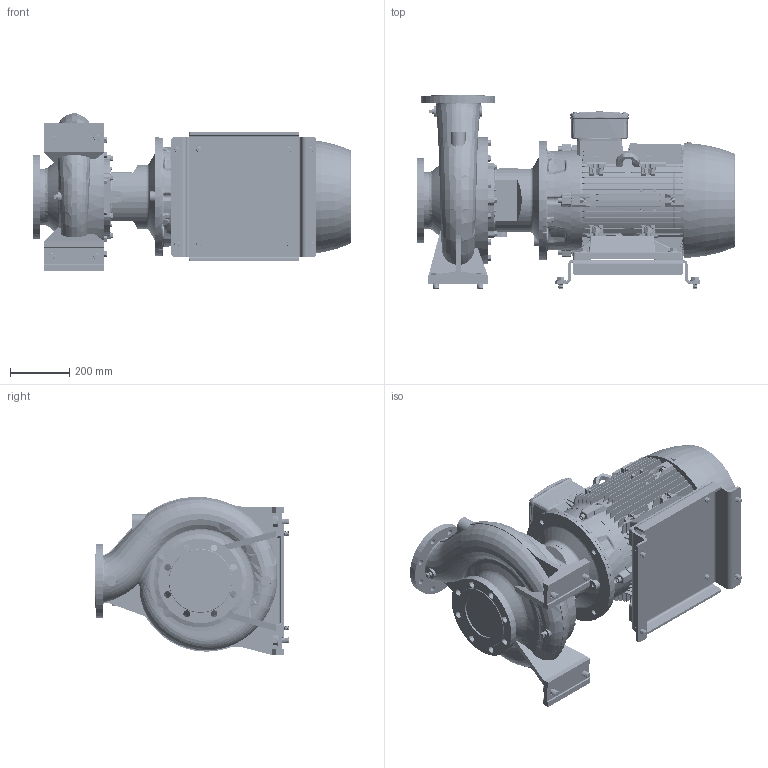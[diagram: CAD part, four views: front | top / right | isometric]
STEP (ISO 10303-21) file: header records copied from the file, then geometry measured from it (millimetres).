
FILE_DESCRIPTION (( 'STEP AP214' ), '1' );
FILE_NAME ('GSD4 125-315_30_(200ML)_W21.STEP', '2026-07-01T04:17:19', ( '' ), ( '' ), 'SwSTEP 2.0', 'SolidWorks 2024', '' );
FILE_SCHEMA (( 'AUTOMOTIVE_DESIGN' ));
Length unit declared in the file: millimetre
Products named in the file (12): Parametric bolt_SFT-A403B; Parametric bolt_SFT-A359B; 125-315-200M_L_ﾃﾞﾌｫﾙﾄ; Parametric Flat Washer_M16; Parametric bolt and washer_SFT-A351B; CGS11-5273; Parametric bolt and washer_SFT-A359B; Parametric bolt and washer_SFT-A403B; GSD4 125-315_30_(200ML)_W21; Parametric bolt_SFT-A351B; Parametric Flat Washer_M20; 200M_L ALIE3_W21T_B35
Assembly tree (21 placements, depth 3):
  GSD4 125-315_30_(200ML)_W21
    125-315-200M_L_ﾃﾞﾌｫﾙﾄ
    CGS11-5273
    Parametric bolt and washer_SFT-A403B  x4
      Parametric bolt_SFT-A403B
      Parametric Flat Washer_M20
    Parametric bolt and washer_SFT-A351B  x4
      Parametric bolt_SFT-A351B
      Parametric Flat Washer_M16
    Parametric bolt and washer_SFT-A359B  x4
      Parametric bolt_SFT-A359B
      Parametric Flat Washer_M16
    200M_L ALIE3_W21T_B35
Bounding box: 1073.8 x 653 x 532.93 mm (x, y, z)
Volume: 107551306 mm3; surface area: 5220107.6 mm2
Topology: 53 solids, 63 shells, 7434 faces, 19200 edges, 12353 vertices
Faces by surface type: plane 4319, cylinder 1397, bspline 941, cone 622, torus 155
Entity records: 288418 total; most frequent: CARTESIAN_POINT 131989, ORIENTED_EDGE 34932, DIRECTION 28116, EDGE_CURVE 17466, VERTEX_POINT 11282, VECTOR 10872, LINE 10872, AXIS2_PLACEMENT_3D 8622
